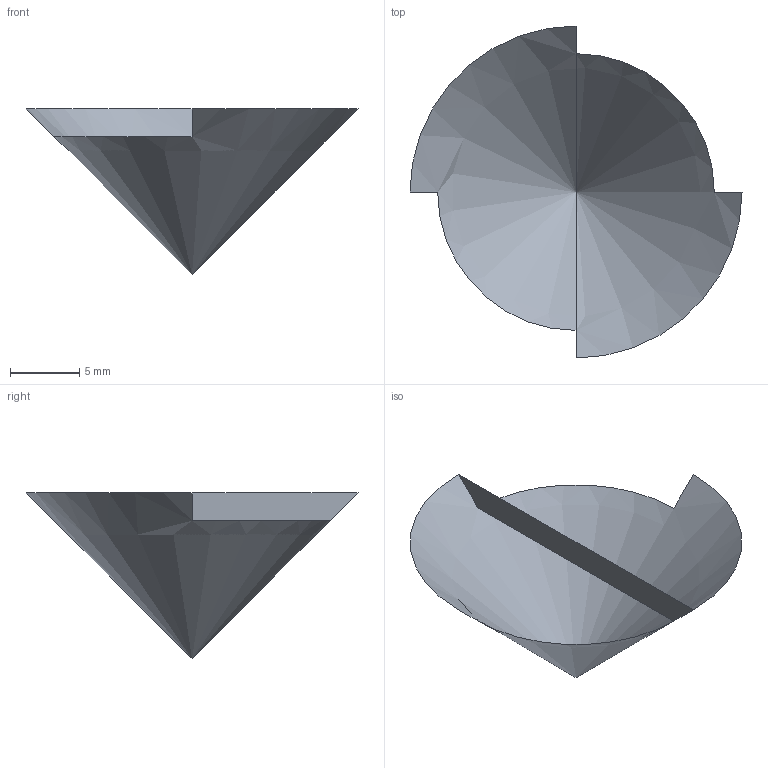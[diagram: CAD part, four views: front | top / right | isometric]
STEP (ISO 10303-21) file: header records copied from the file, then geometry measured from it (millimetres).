
FILE_DESCRIPTION(('BRL-CAD AP214 multi-edge conical cap fixture'),'2;1');
FILE_NAME('ap214_multi_edge_conical_cap.stp','2026-07-24T00:00:00',('BRL-CAD'),('BRL-CAD'),'','','');
FILE_SCHEMA(('AUTOMOTIVE_DESIGN { 1 0 10303 214 3 1 1 1 }'));
Length unit declared in the file: millimetre
Products named in the file (1): multi_edge_conical_cap
Bounding box: 24 x 24 x 12 mm (x, y, z)
Surface area: 586 mm2 (no closed solid volume)
Topology: 0 solids, 1 shells, 2 faces, 12 edges, 9 vertices
Faces by surface type: cone 1, plane 1
Entity records: 95 total; most frequent: CARTESIAN_POINT 12, ORIENTED_EDGE 12, EDGE_CURVE 10, DIRECTION 9, VERTEX_POINT 8, VECTOR 7, LINE 7, AXIS2_PLACEMENT_3D 3
